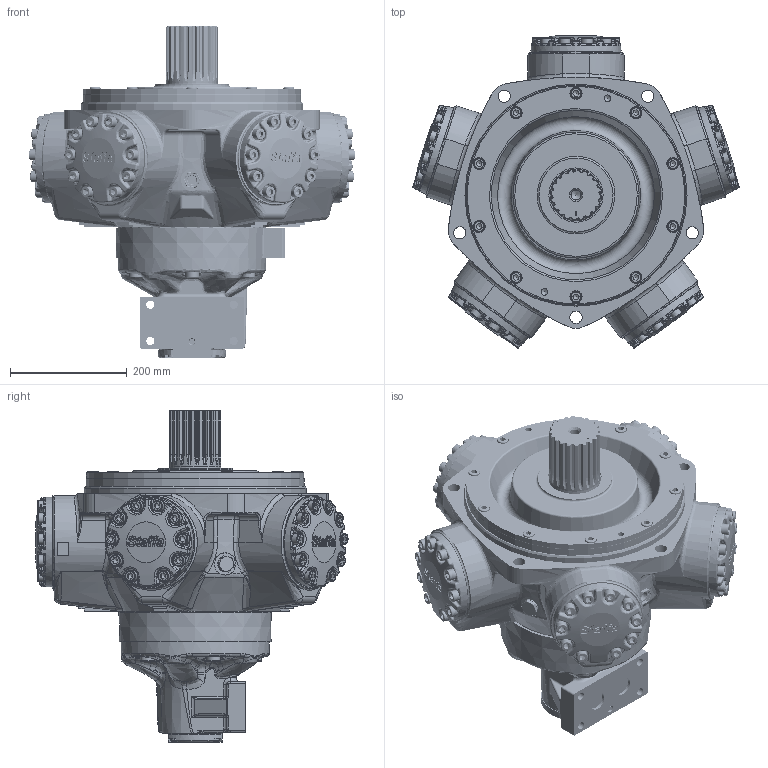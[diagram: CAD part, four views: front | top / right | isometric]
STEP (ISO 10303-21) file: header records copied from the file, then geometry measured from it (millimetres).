
FILE_DESCRIPTION(/* description */ (''),/* implementation_level */ '2;1');
FILE_NAME(/* name */ 'HMC 125_S3_SM3_X_70.stp',/* time_stamp */ '2025-04-23T16:37:57+01:00',/* author */ ('ccallanga'),/* organization */ (''),/* preprocessor_version */ 'ST-DEVELOPER v20',/* originating_system */ 'Autodesk Inventor 2024',/* authorisation */ '');
FILE_SCHEMA (('AUTOMOTIVE_DESIGN { 1 0 10303 214 3 1 1 }'));
Products named in the file (1): 017750 HMC125 WEBSITE ASSEMBLY_Simplify_1
Bounding box: 560.12 x 535.2 x 569.37 mm (x, y, z)
Volume: 41294272.5 mm3; surface area: 1111256.1 mm2
Topology: 1 solids, 1 shells, 4961 faces, 12082 edges, 7140 vertices
Faces by surface type: bspline 1872, plane 1256, cylinder 1050, torus 499, cone 159, sphere 125
Full cylindrical faces by diameter (mm): 2.2 x4, 9.4 x1, 11.328 x4, 11.445 x2, 11.913 x4, 12 x1, 12.7 x4, 14 x4, 16.51 x1, 17.323 x1, 19.05 x60, 20 x4, 20.637 x60, 21 x5, 23.825 x5, 25.4 x5, 26.92 x2, 32 x2, 38.1 x3, 68.58 x1, 87.889 x1, 88.837 x1, 92.964 x1, 127 x1, 158.75 x5, 254 x2, 373.255 x1, 373.596 x1, 380.911 x1
Entity records: 225589 total; most frequent: CARTESIAN_POINT 118758, ORIENTED_EDGE 23682, DIRECTION 17091, EDGE_CURVE 11841, VERTEX_POINT 7140, AXIS2_PLACEMENT_3D 6760, EDGE_LOOP 5237, STYLED_ITEM 4962
